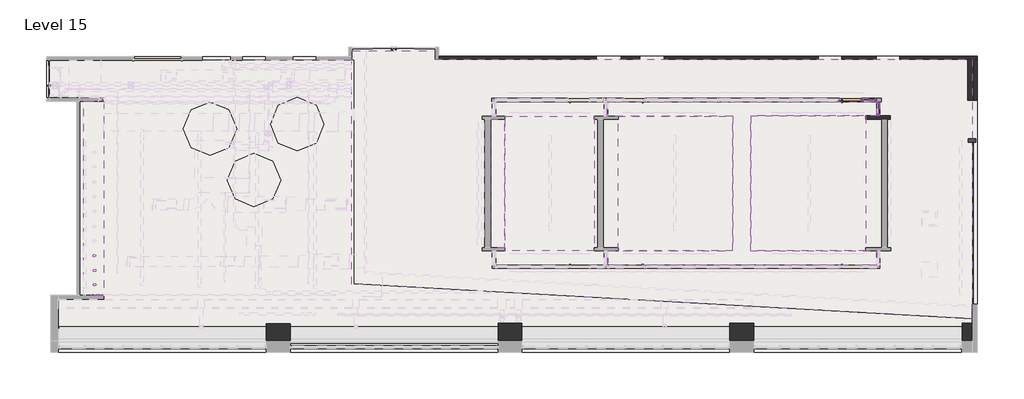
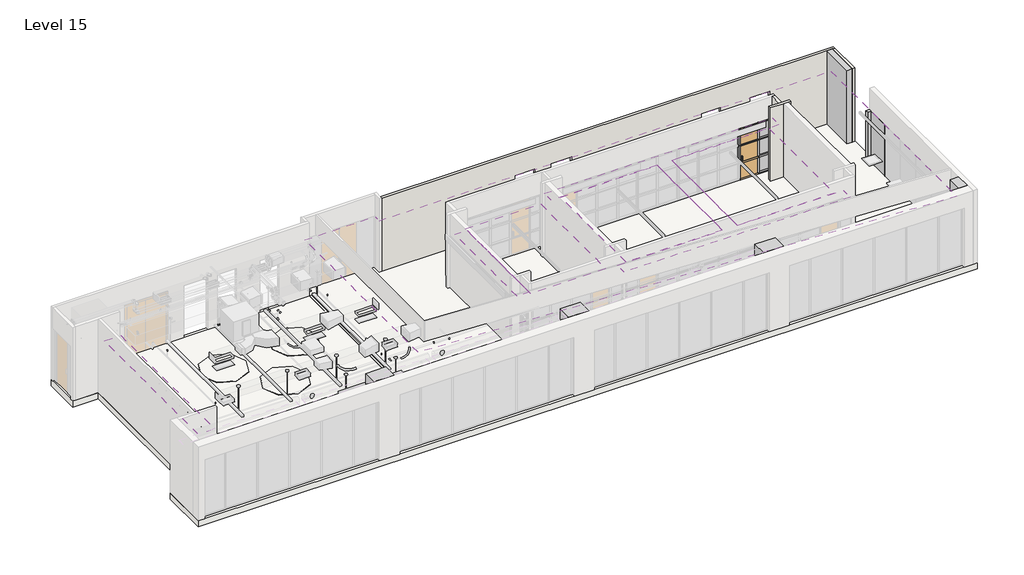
# One storey, part 6 of 11: 23 members, 7 coverings, 7 plates, 7 slabs, 5 columns, 4 walls, 3 light fixtures, 1 cable carrier fitting, 3 other elements.
"""IFC4 building model written with IfcOpenShell, lengths in millimetres."""

from ifc_helpers import new_model, si_unit, point, frame, frame_2d, origin, place, context, project, spatial, polyline, circle_curve, trimmed, segment, composite_curve, outline, extrude, faceted_brep, transform, mapped, element, save
from components import conduit_elbow_steel_standard_458d5d39, door_curtain_wall_single_glass_door_curtain_wall_single_wood_52bd217a, vessel_pendant_light_e44dd57b, member_954a25dd, member_b9f3750b, member_69cae7f1, member_757d0d80, member_801e719f, member_073d71e8, member_393abe5d, power_recessed_all2_duplex_standard_2_0b10a376, system_panel_glazed_545210b6, system_panel_glazed_46c34380, system_panel_glazed_1fe242f3, system_panel_glazed_966251f3, system_panel_glazed_4a8b0cf2

model = new_model("IFC4")

# Units and contexts
model_context = context("Model", 3, world=origin())
ifc_project = project(units=[si_unit("LENGTHUNIT", "METRE", prefix="MILLI")], contexts=[model_context])

# Site, building, storey
site = spatial("IfcSite", under=ifc_project)
building = spatial("IfcBuilding", under=site)
storey = spatial("IfcBuildingStorey", under=building, Name="Level 15", Elevation=51206.4)

# Cable carrier fitting
placement = place(None, origin())
conduit_elbow_steel_standard_shape = conduit_elbow_steel_standard_458d5d39(model_context)
element("IfcCableCarrierFitting", 1, ObjectType="Conduit Elbow - Steel : Standard", at=placement, inside=storey, context=model_context, shape_type="MappedRepresentation", body=[
    mapped(conduit_elbow_steel_standard_shape, transform((-16184.9997966, -4754.4898444, 54152.8), x_axis=(-1.0, 0.0, 0.0), y_axis=(0.0, 0.0, 1.0), z_axis=(0.0, 1.0, 0.0))),
])

# Cable carrier segment
element("IfcCableCarrierSegment", 2, ObjectType="Conduit", at=placement, inside=storey, context=model_context, shape_type="SweptSolid", body=[
    extrude(outline(composite_curve([segment(trimmed(circle_curve(frame_2d((0.0, 27.9019)), 27.9019), [point((0.0, 55.8038))], [point((27.9019, 27.9019))], False, "CARTESIAN"), True, "CONTINUOUS"), segment(trimmed(circle_curve(frame_2d((0.0, 27.9019)), 27.9019), [point((27.9019, 27.9019))], [point((0.0, 0.0))], False, "CARTESIAN"), True, "CONTINUOUS"), segment(trimmed(circle_curve(frame_2d((0.0, 27.9019)), 27.9019), [point((0.0, 0.0))], [point((-27.9019, 27.9019))], False, "CARTESIAN"), True, "CONTINUOUS"), segment(trimmed(circle_curve(frame_2d((0.0, 27.9019)), 27.9019), [point((-27.9019, 27.9019))], [point((0.0, 55.8038))], False, "CARTESIAN"), True, "CONTINUOUS")], self_intersect=False)), frame((-16336.928885, -4782.3917444, 54226.9007676), z_axis=(-0.8987940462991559, 0.0, 0.4383711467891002), x_axis=(0.4383711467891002, 0.0, 0.8987940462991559)), (0.0, 0.0, 1.0), 200.2570741),
])

# Columns
element("IfcColumn", 3, ObjectType="I-Rectangular : Generic", at=placement, inside=storey, context=model_context, shape_type="Brep", body=[
    faceted_brep([(-9539.17525, -5899.1866039, 51206.4), (-8574.3902447, -5899.1866039, 51206.4), (-8574.3902447, -6583.4064015, 51206.4), (-9539.17525, -6583.4064015, 51206.4), (-8574.3902447, -5899.1866039, 54889.4), (-8574.3902447, -6583.4064015, 54889.4), (-8574.3902447, -6583.4064015, 54177.8252182), (-9539.17525, -5899.1866039, 54889.4), (-9539.17525, -6583.4064015, 54177.8252182), (-9539.17525, -6583.4064015, 54889.4)], [[[0, 1, 2, 3]], [[1, 4, 5, 6, 2]], [[7, 0, 3, 8, 9]], [[1, 0, 7, 4]], [[4, 7, 9, 5]], [[3, 2, 6, 5, 9, 8]]]),
])
element("IfcColumn", 4, ObjectType="I-Rectangular : Generic", at=placement, inside=storey, context=model_context, shape_type="Brep", body=[
    faceted_brep([(-274.9578349, -5871.0652372, 51206.4), (671.2097553, -5871.0652372, 51206.4), (671.2097553, -6583.4064015, 51206.4), (-274.9578349, -6583.4064015, 51206.4), (671.2097553, -5871.0652372, 54889.4), (671.2097553, -6583.4064015, 54889.4), (671.2097553, -6583.4064015, 54177.8252182), (-274.9578349, -5871.0652372, 54889.4), (-274.9578349, -6583.4064015, 54177.8252182), (-274.9578349, -6583.4064015, 54889.4)], [[[0, 1, 2, 3]], [[1, 4, 5, 6, 2]], [[7, 0, 3, 8, 9]], [[1, 0, 7, 4]], [[4, 7, 9, 5]], [[3, 2, 6, 5, 9, 8]]]),
])
element("IfcColumn", 5, ObjectType="I-Rectangular : Generic", at=placement, inside=storey, context=model_context, shape_type="Brep", body=[
    faceted_brep([(8970.6421651, -5869.3476501, 51206.4), (9927.9060211, -5869.3476501, 51206.4), (9927.9060211, -6583.4064015, 51206.4), (8970.6421651, -6583.4064015, 51206.4), (9927.9060211, -5869.3476501, 54889.4), (9927.9060211, -6583.4064015, 54889.4), (9927.9060211, -6583.4064015, 54177.8252182), (8970.6421651, -5869.3476501, 54889.4), (8970.6421651, -6583.4064015, 54177.8252182), (8970.6421651, -6583.4064015, 54889.4)], [[[0, 1, 2, 3]], [[1, 4, 5, 6, 2]], [[7, 0, 3, 8, 9]], [[1, 0, 7, 4]], [[4, 7, 9, 5]], [[3, 2, 6, 5, 9, 8]]]),
])
element("IfcColumn", 6, ObjectType="I-Rectangular : Generic", at=placement, inside=storey, context=model_context, shape_type="SweptSolid", body=[
    extrude(outline(polyline([(18244.658577, -6583.4064015), (18244.658577, -5866.7417202), (18657.7084916, -5866.7417202), (18657.7084916, -6583.4064015), (18244.658577, -6583.4064015)])), frame((0.0, 0.0, 51206.4), z_axis=(0.0, 0.0, 1.0), x_axis=(1.0, 0.0, 0.0)), (0.0, 0.0, 1.0), 3683.0),
])
element("IfcColumn", 7, ObjectType="I-Rectangular : Generic", at=placement, inside=storey, context=model_context, shape_type="SweptSolid", body=[
    extrude(outline(polyline([(18721.2084916, 4668.7435985), (18721.2084916, 3026.2127401), (18467.0166559, 3026.2127401), (18467.0166559, 4668.7435985), (18721.2084916, 4668.7435985)])), frame((0.0, 0.0, 51206.4), z_axis=(0.0, 0.0, 1.0), x_axis=(1.0, 0.0, 0.0)), (0.0, 0.0, 1.0), 3683.0),
])

# Coverings
element("IfcCovering", 8, ObjectType="30\" x 30\" ACT System", at=placement, inside=storey, context=model_context, shape_type="SweptSolid", body=[
    extrude(outline(polyline([(-7.6915135, 2394.7059951), (3562.7584916, 2394.7059951), (3562.7584916, -2979.8064015), (-7.6915135, -2979.8064015), (-7.6915135, 2394.7059951)]), holes=[composite_curve([segment(trimmed(circle_curve(frame_2d((627.7584916, -1841.8064015)), 70.0), [point((557.7584916, -1841.8064015))], [point((697.7584916, -1841.8064015))], True, "CARTESIAN"), True, "CONTINUOUS"), segment(trimmed(circle_curve(frame_2d((627.7584916, -1841.8064015)), 70.0), [point((697.7584916, -1841.8064015))], [point((557.7584916, -1841.8064015))], True, "CARTESIAN"), True, "CONTINUOUS")], self_intersect=False), composite_curve([segment(trimmed(circle_curve(frame_2d((2937.7584916, -1841.8064015)), 70.0), [point((2867.7584916, -1841.8064015))], [point((3007.7584916, -1841.8064015))], True, "CARTESIAN"), True, "CONTINUOUS"), segment(trimmed(circle_curve(frame_2d((2937.7584916, -1841.8064015)), 70.0), [point((3007.7584916, -1841.8064015))], [point((2867.7584916, -1841.8064015))], True, "CARTESIAN"), True, "CONTINUOUS")], self_intersect=False)]), frame((0.0, 0.0, 53797.2), z_axis=(0.0, 0.0, 1.0), x_axis=(1.0, 0.0, 0.0)), (0.0, 0.0, 1.0), 57.15),
])
element("IfcCovering", 9, ObjectType="30\" x 30\" ACT System", at=placement, inside=storey, context=model_context, shape_type="SweptSolid", body=[
    extrude(outline(polyline([(4517.5084916, -2979.8064015), (4517.5084916, 2394.7059951), (9097.7584916, 2394.7059951), (9097.7584916, -2979.8064015), (4517.5084916, -2979.8064015)]), holes=[composite_curve([segment(trimmed(circle_curve(frame_2d((5677.7584916, 1258.1935985)), 70.0), [point((5607.7584916, 1258.1935985))], [point((5747.7584916, 1258.1935985))], True, "CARTESIAN"), True, "CONTINUOUS"), segment(trimmed(circle_curve(frame_2d((5677.7584916, 1258.1935985)), 70.0), [point((5747.7584916, 1258.1935985))], [point((5607.7584916, 1258.1935985))], True, "CARTESIAN"), True, "CONTINUOUS")], self_intersect=False), composite_curve([segment(trimmed(circle_curve(frame_2d((7997.7584916, 1258.1935985)), 70.0), [point((7927.7584916, 1258.1935985))], [point((8067.7584916, 1258.1935985))], True, "CARTESIAN"), True, "CONTINUOUS"), segment(trimmed(circle_curve(frame_2d((7997.7584916, 1258.1935985)), 70.0), [point((8067.7584916, 1258.1935985))], [point((7927.7584916, 1258.1935985))], True, "CARTESIAN"), True, "CONTINUOUS")], self_intersect=False), composite_curve([segment(trimmed(circle_curve(frame_2d((5667.7584916, -1833.8064015)), 70.0), [point((5597.7584916, -1833.8064015))], [point((5737.7584916, -1833.8064015))], True, "CARTESIAN"), True, "CONTINUOUS"), segment(trimmed(circle_curve(frame_2d((5667.7584916, -1833.8064015)), 70.0), [point((5737.7584916, -1833.8064015))], [point((5597.7584916, -1833.8064015))], True, "CARTESIAN"), True, "CONTINUOUS")], self_intersect=False), composite_curve([segment(trimmed(circle_curve(frame_2d((7947.7584916, -1851.8064015)), 70.0), [point((7877.7584916, -1851.8064015))], [point((8017.7584916, -1851.8064015))], True, "CARTESIAN"), True, "CONTINUOUS"), segment(trimmed(circle_curve(frame_2d((7947.7584916, -1851.8064015)), 70.0), [point((8017.7584916, -1851.8064015))], [point((7877.7584916, -1851.8064015))], True, "CARTESIAN"), True, "CONTINUOUS")], self_intersect=False)]), frame((0.0, 0.0, 53797.2), z_axis=(0.0, 0.0, 1.0), x_axis=(1.0, 0.0, 0.0)), (0.0, 0.0, 1.0), 57.15),
])
element("IfcCovering", 10, ObjectType="30\" x 30\" ACT System", at=placement, inside=storey, context=model_context, shape_type="SweptSolid", body=[
    extrude(outline(polyline([(9803.199573, 2402.7935985), (14409.2229086, 2402.7935985), (14409.2229086, -2979.9154908), (9803.199573, -2979.9154908), (9803.199573, 2402.7935985)]), holes=[composite_curve([segment(trimmed(circle_curve(frame_2d((10967.7584916, -1841.8064015)), 70.0), [point((10897.7584916, -1841.8064015))], [point((11037.7584916, -1841.8064015))], True, "CARTESIAN"), True, "CONTINUOUS"), segment(trimmed(circle_curve(frame_2d((10967.7584916, -1841.8064015)), 70.0), [point((11037.7584916, -1841.8064015))], [point((10897.7584916, -1841.8064015))], True, "CARTESIAN"), True, "CONTINUOUS")], self_intersect=False), composite_curve([segment(trimmed(circle_curve(frame_2d((13277.7584916, -1841.8064015)), 70.0), [point((13207.7584916, -1841.8064015))], [point((13347.7584916, -1841.8064015))], True, "CARTESIAN"), True, "CONTINUOUS"), segment(trimmed(circle_curve(frame_2d((13277.7584916, -1841.8064015)), 70.0), [point((13347.7584916, -1841.8064015))], [point((13207.7584916, -1841.8064015))], True, "CARTESIAN"), True, "CONTINUOUS")], self_intersect=False), composite_curve([segment(trimmed(circle_curve(frame_2d((10967.7584916, 1258.1935985)), 70.0), [point((10897.7584916, 1258.1935985))], [point((11037.7584916, 1258.1935985))], True, "CARTESIAN"), True, "CONTINUOUS"), segment(trimmed(circle_curve(frame_2d((10967.7584916, 1258.1935985)), 70.0), [point((11037.7584916, 1258.1935985))], [point((10897.7584916, 1258.1935985))], True, "CARTESIAN"), True, "CONTINUOUS")], self_intersect=False), composite_curve([segment(trimmed(circle_curve(frame_2d((13277.7584916, 1258.1935985)), 70.0), [point((13207.7584916, 1258.1935985))], [point((13347.7584916, 1258.1935985))], True, "CARTESIAN"), True, "CONTINUOUS"), segment(trimmed(circle_curve(frame_2d((13277.7584916, 1258.1935985)), 70.0), [point((13347.7584916, 1258.1935985))], [point((13207.7584916, 1258.1935985))], True, "CARTESIAN"), True, "CONTINUOUS")], self_intersect=False)]), frame((0.0, 0.0, 53797.2), z_axis=(0.0, 0.0, 1.0), x_axis=(1.0, 0.0, 0.0)), (0.0, 0.0, 1.0), 57.15),
])
element("IfcCovering", 11, ObjectType="GWB on Mtl. Stud", at=placement, inside=storey, context=model_context, shape_type="SweptSolid", body=[
    extrude(outline(polyline([(-2790.2478839, 4668.7435985), (18657.7084916, 4668.7435985), (18657.7084916, -5694.4064015), (-6122.87525, -4309.3116273), (-6122.87525, 5008.9081345), (-2790.2478839, 5008.9081345), (-2790.2478839, 4668.7435985)]), holes=[composite_curve([segment(trimmed(circle_curve(frame_2d((-4452.2415084, 3878.1935985)), 70.0), [point((-4522.2415084, 3878.1935985))], [point((-4382.2415084, 3878.1935985))], True, "CARTESIAN"), True, "CONTINUOUS"), segment(trimmed(circle_curve(frame_2d((-4452.2415084, 3878.1935985)), 70.0), [point((-4382.2415084, 3878.1935985))], [point((-4522.2415084, 3878.1935985))], True, "CARTESIAN"), True, "CONTINUOUS")], self_intersect=False), composite_curve([segment(trimmed(circle_curve(frame_2d((-4452.2415084, 2015.1935985)), 70.0), [point((-4522.2415084, 2015.1935985))], [point((-4382.2415084, 2015.1935985))], True, "CARTESIAN"), True, "CONTINUOUS"), segment(trimmed(circle_curve(frame_2d((-4452.2415084, 2015.1935985)), 70.0), [point((-4382.2415084, 2015.1935985))], [point((-4522.2415084, 2015.1935985))], True, "CARTESIAN"), True, "CONTINUOUS")], self_intersect=False), composite_curve([segment(trimmed(circle_curve(frame_2d((-4452.2415084, 98.1935985)), 70.0), [point((-4522.2415084, 98.1935985))], [point((-4382.2415084, 98.1935985))], True, "CARTESIAN"), True, "CONTINUOUS"), segment(trimmed(circle_curve(frame_2d((-4452.2415084, 98.1935985)), 70.0), [point((-4382.2415084, 98.1935985))], [point((-4522.2415084, 98.1935985))], True, "CARTESIAN"), True, "CONTINUOUS")], self_intersect=False), composite_curve([segment(trimmed(circle_curve(frame_2d((-4452.2415084, -1761.8064015)), 70.0), [point((-4522.2415084, -1761.8064015))], [point((-4382.2415084, -1761.8064015))], True, "CARTESIAN"), True, "CONTINUOUS"), segment(trimmed(circle_curve(frame_2d((-4452.2415084, -1761.8064015)), 70.0), [point((-4382.2415084, -1761.8064015))], [point((-4522.2415084, -1761.8064015))], True, "CARTESIAN"), True, "CONTINUOUS")], self_intersect=False), composite_curve([segment(trimmed(circle_curve(frame_2d((-4452.2415084, -3684.6064015)), 70.0), [point((-4522.2415084, -3684.6064015))], [point((-4382.2415084, -3684.6064015))], True, "CARTESIAN"), True, "CONTINUOUS"), segment(trimmed(circle_curve(frame_2d((-4452.2415084, -3684.6064015)), 70.0), [point((-4382.2415084, -3684.6064015))], [point((-4522.2415084, -3684.6064015))], True, "CARTESIAN"), True, "CONTINUOUS")], self_intersect=False), composite_curve([segment(trimmed(circle_curve(frame_2d((-2501.1453174, 3878.1935985)), 70.0), [point((-2571.1453174, 3878.1935985))], [point((-2431.1453174, 3878.1935985))], True, "CARTESIAN"), True, "CONTINUOUS"), segment(trimmed(circle_curve(frame_2d((-2501.1453174, 3878.1935985)), 70.0), [point((-2431.1453174, 3878.1935985))], [point((-2571.1453174, 3878.1935985))], True, "CARTESIAN"), True, "CONTINUOUS")], self_intersect=False), composite_curve([segment(trimmed(circle_curve(frame_2d((-2501.1453174, 2015.1935985)), 70.0), [point((-2571.1453174, 2015.1935985))], [point((-2431.1453174, 2015.1935985))], True, "CARTESIAN"), True, "CONTINUOUS"), segment(trimmed(circle_curve(frame_2d((-2501.1453174, 2015.1935985)), 70.0), [point((-2431.1453174, 2015.1935985))], [point((-2571.1453174, 2015.1935985))], True, "CARTESIAN"), True, "CONTINUOUS")], self_intersect=False), composite_curve([segment(trimmed(circle_curve(frame_2d((-2501.1453174, 98.1935985)), 70.0), [point((-2571.1453174, 98.1935985))], [point((-2431.1453174, 98.1935985))], True, "CARTESIAN"), True, "CONTINUOUS"), segment(trimmed(circle_curve(frame_2d((-2501.1453174, 98.1935985)), 70.0), [point((-2431.1453174, 98.1935985))], [point((-2571.1453174, 98.1935985))], True, "CARTESIAN"), True, "CONTINUOUS")], self_intersect=False), composite_curve([segment(trimmed(circle_curve(frame_2d((-2501.1453174, -1761.8064015)), 70.0), [point((-2571.1453174, -1761.8064015))], [point((-2431.1453174, -1761.8064015))], True, "CARTESIAN"), True, "CONTINUOUS"), segment(trimmed(circle_curve(frame_2d((-2501.1453174, -1761.8064015)), 70.0), [point((-2431.1453174, -1761.8064015))], [point((-2571.1453174, -1761.8064015))], True, "CARTESIAN"), True, "CONTINUOUS")], self_intersect=False), composite_curve([segment(trimmed(circle_curve(frame_2d((-2501.1453174, -3684.6064015)), 70.0), [point((-2571.1453174, -3684.6064015))], [point((-2431.1453174, -3684.6064015))], True, "CARTESIAN"), True, "CONTINUOUS"), segment(trimmed(circle_curve(frame_2d((-2501.1453174, -3684.6064015)), 70.0), [point((-2431.1453174, -3684.6064015))], [point((-2571.1453174, -3684.6064015))], True, "CARTESIAN"), True, "CONTINUOUS")], self_intersect=False), polyline([(-529.1055951, 3103.416042), (-529.1055951, 2388.3059951), (-922.0915135, 2388.3059951), (-922.0915135, 2261.3059951), (-814.1415135, 2261.3059951), (-814.1415135, -2852.8064015), (-905.2415084, -2852.8064015), (-905.2415084, -2979.8064015), (-506.4144534, -2979.8064015), (-506.4144534, -3684.6064015), (14962.1855466, -3684.6064015), (14962.1855466, -2979.9154908), (15397.6738149, -2979.9154908), (15397.6738149, -2852.9154908), (15259.9736219, -2852.9154908), (15259.9736219, 2275.7935985), (15371.1287834, 2275.7935985), (15371.1287834, 2402.7935985), (15015.6944049, 2402.7935985), (15015.6944049, 3103.416042), (-529.1055951, 3103.416042)])]), frame((0.0, 0.0, 53797.2), z_axis=(0.0, 0.0, 1.0), x_axis=(1.0, 0.0, 0.0)), (0.0, 0.0, 1.0), 92.075),
])
element("IfcCovering", 12, ObjectType="GWB on Mtl. Stud", at=placement, inside=storey, context=model_context, shape_type="SweptSolid", body=[
    extrude(outline(polyline([(-16819.9809218, -4757.7011111), (-16819.9809218, 2985.6250496), (-16037.0051026, 2985.6250496), (-16037.0051026, -4757.7011111), (-16819.9809218, -4757.7011111)])), frame((0.0, 0.0, 53701.95), z_axis=(0.0, 0.0, 1.0), x_axis=(1.0, 0.0, 0.0)), (0.0, 0.0, 1.0), 92.075),
])
element("IfcCovering", 13, ObjectType="GWB on Mtl. Stud", at=placement, inside=storey, context=model_context, shape_type="SweptSolid", body=[
    extrude(outline(polyline([(-585.5415135, -2852.8064015), (-585.5415135, 2261.3059951), (-7.6915135, 2261.3059951), (-7.6915135, -2852.8064015), (-585.5415135, -2852.8064015)])), frame((0.0, 0.0, 53797.2), z_axis=(0.0, 0.0, 1.0), x_axis=(1.0, 0.0, 0.0)), (0.0, 0.0, 1.0), 92.075),
    extrude(outline(polyline([(3964.0369657, -2979.8064015), (3964.0369657, -3557.6064015), (-379.4144534, -3557.6064015), (-379.4144534, -2979.8064015), (3964.0369657, -2979.8064015)])), frame((0.0, 0.0, 53797.2), z_axis=(0.0, 0.0, 1.0), x_axis=(1.0, 0.0, 0.0)), (0.0, 0.0, 1.0), 92.075),
    extrude(outline(polyline([(3697.3369657, -2852.8064015), (3562.7584916, -2852.8064015), (3562.7584916, 2267.7059951), (3697.3369657, 2267.7059951), (3697.3369657, -2852.8064015)])), frame((0.0, 0.0, 53797.2), z_axis=(0.0, 0.0, 1.0), x_axis=(1.0, 0.0, 0.0)), (0.0, 0.0, 1.0), 92.075),
    extrude(outline(polyline([(3949.4264687, 2976.416042), (3949.4264687, 2394.7059951), (-402.1055951, 2394.7059951), (-402.1055951, 2976.416042), (3949.4264687, 2976.416042)])), frame((0.0, 0.0, 53797.2), z_axis=(0.0, 0.0, 1.0), x_axis=(1.0, 0.0, 0.0)), (0.0, 0.0, 1.0), 92.075),
])
element("IfcCovering", 14, ObjectType="GWB on Mtl. Stud", at=placement, inside=storey, context=model_context, shape_type="SweptSolid", body=[
    extrude(outline(polyline([(3925.9369657, -2852.8064015), (3925.9369657, 2267.7059951), (4517.5084916, 2267.7059951), (4517.5084916, -2852.8064015), (3925.9369657, -2852.8064015)])), frame((0.0, 0.0, 53797.2), z_axis=(0.0, 0.0, 1.0), x_axis=(1.0, 0.0, 0.0)), (0.0, 0.0, 1.0), 92.075),
    extrude(outline(polyline([(4091.0369657, -2979.8064015), (9097.7584916, -2979.8064015), (9097.7584916, 2394.7059951), (4076.4264687, 2394.7059951), (4076.4264687, 2976.416042), (14888.6944049, 2976.416042), (14888.6944049, 2402.7935985), (9803.199573, 2402.7935985), (9803.199573, -2979.9154908), (14835.1855466, -2979.9154908), (14835.1855466, -3557.6064015), (4091.0369657, -3557.6064015), (4091.0369657, -2979.8064015)])), frame((0.0, 0.0, 53797.2), z_axis=(0.0, 0.0, 1.0), x_axis=(1.0, 0.0, 0.0)), (0.0, 0.0, 1.0), 92.075),
    extrude(outline(polyline([(14409.2229086, -2852.9154908), (14409.2229086, 2275.7935985), (15031.3736219, 2275.7935985), (15031.3736219, -2852.9154908), (14409.2229086, -2852.9154908)])), frame((0.0, 0.0, 53797.2), z_axis=(0.0, 0.0, 1.0), x_axis=(1.0, 0.0, 0.0)), (0.0, 0.0, 1.0), 92.075),
])

# Door
door_curtain_wall_single_glass_door_curtain_wall_single_wood_shape = door_curtain_wall_single_glass_door_curtain_wall_single_wood_52bd217a(model_context)
element("IfcDoor", 15, ObjectType="Door-Curtain-Wall-Single-Glass : Door-Curtain-Wall-Single-Wood", at=placement, inside=storey, context=model_context, shape_type="MappedRepresentation", body=[
    mapped(door_curtain_wall_single_glass_door_curtain_wall_single_wood_shape, transform((13793.8112561, 3036.0059951, 51206.4), x_axis=(1.0, 0.0, 0.0), y_axis=(0.0, 1.0, 0.0), z_axis=(0.0, 0.0, 1.0))),
])

# Light fixtures
vessel_pendant_light_shape = vessel_pendant_light_e44dd57b(model_context)
element("IfcLightFixture", 16, ObjectType="Lighting-VSRA-Vessel-Pendant-Light-SM-3D-Humanscale : Vessel Pendant Light", at=placement, inside=storey, context=model_context, shape_type="MappedRepresentation", body=[
    mapped(vessel_pendant_light_shape, transform((-16402.2415084, -3181.0064015, 53511.8286274), x_axis=(1.0, 0.0, 0.0), y_axis=(0.0, 1.0, 0.0), z_axis=(0.0, 0.0, 1.0))),
])
element("IfcLightFixture", 17, ObjectType="Lighting-VSRA-Vessel-Pendant-Light-SM-3D-Humanscale : Vessel Pendant Light", at=placement, inside=storey, context=model_context, shape_type="MappedRepresentation", body=[
    mapped(vessel_pendant_light_shape, transform((-16396.2415084, -3771.8064015, 53511.8286274), x_axis=(1.0, 0.0, 0.0), y_axis=(0.0, 1.0, 0.0), z_axis=(0.0, 0.0, 1.0))),
])
element("IfcLightFixture", 18, ObjectType="Lighting-VSRA-Vessel-Pendant-Light-SM-3D-Humanscale : Vessel Pendant Light", at=placement, inside=storey, context=model_context, shape_type="MappedRepresentation", body=[
    mapped(vessel_pendant_light_shape, transform((-16396.2415084, -4336.4064015, 53511.8286274), x_axis=(1.0, 0.0, 0.0), y_axis=(0.0, 1.0, 0.0), z_axis=(0.0, 0.0, 1.0))),
])

# Members
member_shape = member_954a25dd(model_context)
element("IfcMember", 19, ObjectType="Rectangular Mullion : 2.5\" x 5\" rectangular", at=placement, inside=storey, context=model_context, shape_type="MappedRepresentation", body=[
    mapped(member_shape, transform((14898.6855466, 2972.5059951, 51206.4), x_axis=(0.0, 1.0, 0.0), y_axis=(1.0, 0.0, 0.0), z_axis=(0.0, 0.0, -1.0))),
])
element("IfcMember", 20, ObjectType="Rectangular Mullion : 2.5\" x 5\" rectangular", at=placement, inside=storey, context=model_context, shape_type="MappedRepresentation", body=[
    mapped(member_shape, transform((14898.6855466, 2402.7935985, 53804.1570075), x_axis=(0.0, -1.0, 0.0), y_axis=(1.0, 0.0, 0.0), z_axis=(0.0, 0.0, 1.0))),
])
element("IfcMember", 21, ObjectType="Rectangular Mullion : 2.5\" x 5\" rectangular", at=placement, inside=storey, context=model_context, shape_type="MappedRepresentation", body=[
    mapped(member_shape, transform((14835.1855466, 3036.0059951, 53804.1570075), x_axis=(1.0, 0.0, 0.0), y_axis=(0.0, 1.0, 0.0), z_axis=(0.0, 0.0, 1.0))),
])
member_2_shape = member_b9f3750b(model_context)
element("IfcMember", 22, ObjectType="Rectangular Mullion : 2.5\" x 5\" rectangular", at=placement, inside=storey, context=model_context, shape_type="MappedRepresentation", body=[
    mapped(member_2_shape, transform((14771.6855466, 3036.0059951, 51206.4), x_axis=(0.0, 0.0, -1.0), y_axis=(0.0, 1.0, 0.0), z_axis=(1.0, 0.0, 0.0))),
])
member_3_shape = member_69cae7f1(model_context)
element("IfcMember", 23, ObjectType="Rectangular Mullion : 2.5\" x 5\" rectangular", at=placement, inside=storey, context=model_context, shape_type="MappedRepresentation", body=[
    mapped(member_3_shape, transform((14250.9855466, 3036.0059951, 51206.4), x_axis=(-1.0, 0.0, 0.0), y_axis=(0.0, 1.0, 0.0), z_axis=(0.0, 0.0, -1.0))),
])
element("IfcMember", 24, ObjectType="Rectangular Mullion : 2.5\" x 5\" rectangular", at=placement, inside=storey, context=model_context, shape_type="MappedRepresentation", body=[
    mapped(member_2_shape, transform((14282.7355466, 3036.0059951, 53804.1570075), x_axis=(0.0, 0.0, 1.0), y_axis=(0.0, 1.0, 0.0), z_axis=(-1.0, 0.0, 0.0))),
])
member_4_shape = member_757d0d80(model_context)
element("IfcMember", 25, ObjectType="Rectangular Mullion : 2.5\" x 5\" rectangular", at=placement, inside=storey, context=model_context, shape_type="MappedRepresentation", body=[
    mapped(member_4_shape, transform((14282.7355466, 3036.0059951, 52938.238005), x_axis=(0.0, 0.0, 1.0), y_axis=(0.0, 1.0, 0.0), z_axis=(-1.0, 0.0, 0.0))),
])
element("IfcMember", 26, ObjectType="Rectangular Mullion : 2.5\" x 5\" rectangular", at=placement, inside=storey, context=model_context, shape_type="MappedRepresentation", body=[
    mapped(member_4_shape, transform((14282.7355466, 3036.0059951, 52072.3190025), x_axis=(0.0, 0.0, 1.0), y_axis=(0.0, 1.0, 0.0), z_axis=(-1.0, 0.0, 0.0))),
])
element("IfcMember", 27, ObjectType="Rectangular Mullion : 2.5\" x 5\" rectangular", at=placement, inside=storey, context=model_context, shape_type="MappedRepresentation", body=[
    mapped(member_3_shape, transform((14250.9855466, 3036.0059951, 52938.238005), x_axis=(-1.0, 0.0, 0.0), y_axis=(0.0, 1.0, 0.0), z_axis=(0.0, 0.0, -1.0))),
])
element("IfcMember", 28, ObjectType="Rectangular Mullion : 2.5\" x 5\" rectangular", at=placement, inside=storey, context=model_context, shape_type="MappedRepresentation", body=[
    mapped(member_3_shape, transform((13336.6369657, 3036.0059951, 52938.238005), x_axis=(-1.0, 0.0, 0.0), y_axis=(0.0, 1.0, 0.0), z_axis=(0.0, 0.0, -1.0))),
])
element("IfcMember", 29, ObjectType="Rectangular Mullion : 2.5\" x 5\" rectangular", at=placement, inside=storey, context=model_context, shape_type="MappedRepresentation", body=[
    mapped(member_3_shape, transform((14250.9855466, 3036.0059951, 52072.3190025), x_axis=(-1.0, 0.0, 0.0), y_axis=(0.0, 1.0, 0.0), z_axis=(0.0, 0.0, -1.0))),
])
element("IfcMember", 30, ObjectType="Rectangular Mullion : 2.5\" x 5\" rectangular", at=placement, inside=storey, context=model_context, shape_type="MappedRepresentation", body=[
    mapped(member_3_shape, transform((13336.6369657, 3036.0059951, 52072.3190025), x_axis=(-1.0, 0.0, 0.0), y_axis=(0.0, 1.0, 0.0), z_axis=(0.0, 0.0, -1.0))),
])
element("IfcMember", 31, ObjectType="Rectangular Mullion : 2.5\" x 5\" rectangular", at=placement, inside=storey, context=model_context, shape_type="MappedRepresentation", body=[
    mapped(member_shape, transform((14898.6855466, 2972.5059951, 52938.238005), x_axis=(0.0, 1.0, 0.0), y_axis=(1.0, 0.0, 0.0), z_axis=(0.0, 0.0, -1.0))),
])
element("IfcMember", 32, ObjectType="Rectangular Mullion : 2.5\" x 5\" rectangular", at=placement, inside=storey, context=model_context, shape_type="MappedRepresentation", body=[
    mapped(member_shape, transform((14835.1855466, 3036.0059951, 52938.238005), x_axis=(1.0, 0.0, 0.0), y_axis=(0.0, 1.0, 0.0), z_axis=(0.0, 0.0, 1.0))),
])
element("IfcMember", 33, ObjectType="Rectangular Mullion : 2.5\" x 5\" rectangular", at=placement, inside=storey, context=model_context, shape_type="MappedRepresentation", body=[
    mapped(member_shape, transform((14898.6855466, 2402.7935985, 52938.238005), x_axis=(0.0, -1.0, 0.0), y_axis=(1.0, 0.0, 0.0), z_axis=(0.0, 0.0, 1.0))),
])
element("IfcMember", 34, ObjectType="Rectangular Mullion : 2.5\" x 5\" rectangular", at=placement, inside=storey, context=model_context, shape_type="MappedRepresentation", body=[
    mapped(member_shape, transform((14898.6855466, 2972.5059951, 52072.3190025), x_axis=(0.0, 1.0, 0.0), y_axis=(1.0, 0.0, 0.0), z_axis=(0.0, 0.0, -1.0))),
])
element("IfcMember", 35, ObjectType="Rectangular Mullion : 2.5\" x 5\" rectangular", at=placement, inside=storey, context=model_context, shape_type="MappedRepresentation", body=[
    mapped(member_shape, transform((14835.1855466, 3036.0059951, 52072.3190025), x_axis=(1.0, 0.0, 0.0), y_axis=(0.0, 1.0, 0.0), z_axis=(0.0, 0.0, 1.0))),
])
element("IfcMember", 36, ObjectType="Rectangular Mullion : 2.5\" x 5\" rectangular", at=placement, inside=storey, context=model_context, shape_type="MappedRepresentation", body=[
    mapped(member_shape, transform((14898.6855466, 2402.7935985, 52072.3190025), x_axis=(0.0, -1.0, 0.0), y_axis=(1.0, 0.0, 0.0), z_axis=(0.0, 0.0, 1.0))),
])
member_5_shape = member_801e719f(model_context)
element("IfcMember", 37, ObjectType="Rectangular Mullion : 2.5\" x 5\" rectangular", at=placement, inside=storey, context=model_context, shape_type="MappedRepresentation", body=[
    mapped(member_5_shape, transform((14898.6855466, 2909.0059951, 53804.1570075), x_axis=(0.0, 0.0, 1.0), y_axis=(1.0, 0.0, 0.0), z_axis=(0.0, 1.0, 0.0))),
])
element("IfcMember", 38, ObjectType="Rectangular Mullion : 2.5\" x 5\" rectangular", at=placement, inside=storey, context=model_context, shape_type="MappedRepresentation", body=[
    mapped(member_5_shape, transform((14898.6855466, 2466.2935985, 51206.4), x_axis=(0.0, 0.0, -1.0), y_axis=(1.0, 0.0, 0.0), z_axis=(0.0, -1.0, 0.0))),
])
member_6_shape = member_073d71e8(model_context)
element("IfcMember", 39, ObjectType="Rectangular Mullion : 2.5\" x 5\" rectangular", at=placement, inside=storey, context=model_context, shape_type="MappedRepresentation", body=[
    mapped(member_6_shape, transform((14898.6855466, 2909.0059951, 52938.238005), x_axis=(0.0, 0.0, 1.0), y_axis=(1.0, 0.0, 0.0), z_axis=(0.0, 1.0, 0.0))),
])
element("IfcMember", 40, ObjectType="Rectangular Mullion : 2.5\" x 5\" rectangular", at=placement, inside=storey, context=model_context, shape_type="MappedRepresentation", body=[
    mapped(member_6_shape, transform((14898.6855466, 2909.0059951, 52072.3190025), x_axis=(0.0, 0.0, 1.0), y_axis=(1.0, 0.0, 0.0), z_axis=(0.0, 1.0, 0.0))),
])
member_7_shape = member_393abe5d(model_context)
element("IfcMember", 41, ObjectType="Rectangular Mullion : 2.5\" x 5\" rectangular 2", at=placement, inside=storey, context=model_context, shape_type="MappedRepresentation", body=[
    mapped(member_7_shape, transform((18645.0084916, 1493.7935985, 53804.1570075), x_axis=(0.0, 1.0, 0.0), y_axis=(-1.0, 0.0, 0.0), z_axis=(0.0, 0.0, 1.0))),
])

# Outlet
power_recessed_all2_duplex_standard_2_shape = power_recessed_all2_duplex_standard_2_0b10a376(model_context)
element("IfcOutlet", 42, ObjectType="Power-Recessed-All2 : Duplex-Standard 2", at=placement, inside=storey, context=model_context, shape_type="MappedRepresentation", body=[
    mapped(power_recessed_all2_duplex_standard_2_shape, transform((-17838.6076598, -6050.0064015, 51917.6), x_axis=(0.0, -1.0, 0.0), y_axis=(0.0, 0.0, -1.0), z_axis=(1.0, 0.0, 0.0))),
])

# Plates
system_panel_glazed_shape = system_panel_glazed_545210b6(model_context)
element("IfcPlate", 43, ObjectType="System Panel : Glazed", at=placement, inside=storey, context=model_context, shape_type="MappedRepresentation", body=[
    mapped(system_panel_glazed_shape, transform((18645.0084916, 792.1185985, 51206.4), x_axis=(0.0, -1.0, 0.0), y_axis=(1.0, 0.0, 0.0), z_axis=(0.0, 0.0, 1.0))),
])
system_panel_glazed_2_shape = system_panel_glazed_46c34380(model_context)
element("IfcPlate", 44, ObjectType="System Panel : Glazed", at=placement, inside=storey, context=model_context, shape_type="MappedRepresentation", body=[
    mapped(system_panel_glazed_2_shape, transform((14527.2105466, 3036.0059951, 51269.9), x_axis=(-1.0, 0.0, 0.0), y_axis=(0.0, -1.0, 0.0), z_axis=(0.0, 0.0, 1.0))),
])
element("IfcPlate", 45, ObjectType="System Panel : Glazed", at=placement, inside=storey, context=model_context, shape_type="MappedRepresentation", body=[
    mapped(system_panel_glazed_2_shape, transform((14527.2105466, 3036.0059951, 52969.988005), x_axis=(-1.0, 0.0, 0.0), y_axis=(0.0, -1.0, 0.0), z_axis=(0.0, 0.0, 1.0))),
])
system_panel_glazed_3_shape = system_panel_glazed_1fe242f3(model_context)
element("IfcPlate", 46, ObjectType="System Panel : Glazed", at=placement, inside=storey, context=model_context, shape_type="MappedRepresentation", body=[
    mapped(system_panel_glazed_3_shape, transform((14527.2105466, 3036.0059951, 52104.0690025), x_axis=(-1.0, 0.0, 0.0), y_axis=(0.0, -1.0, 0.0), z_axis=(0.0, 0.0, 1.0))),
])
system_panel_glazed_4_shape = system_panel_glazed_966251f3(model_context)
element("IfcPlate", 47, ObjectType="System Panel : Glazed", at=placement, inside=storey, context=model_context, shape_type="MappedRepresentation", body=[
    mapped(system_panel_glazed_4_shape, transform((14898.6855466, 2687.6497968, 51269.9), x_axis=(0.0, 1.0, 0.0), y_axis=(-1.0, 0.0, 0.0), z_axis=(0.0, 0.0, 1.0))),
])
element("IfcPlate", 48, ObjectType="System Panel : Glazed", at=placement, inside=storey, context=model_context, shape_type="MappedRepresentation", body=[
    mapped(system_panel_glazed_4_shape, transform((14898.6855466, 2687.6497968, 52969.988005), x_axis=(0.0, 1.0, 0.0), y_axis=(-1.0, 0.0, 0.0), z_axis=(0.0, 0.0, 1.0))),
])
system_panel_glazed_5_shape = system_panel_glazed_4a8b0cf2(model_context)
element("IfcPlate", 49, ObjectType="System Panel : Glazed", at=placement, inside=storey, context=model_context, shape_type="MappedRepresentation", body=[
    mapped(system_panel_glazed_5_shape, transform((14898.6855466, 2687.6497968, 52104.0690025), x_axis=(0.0, 1.0, 0.0), y_axis=(-1.0, 0.0, 0.0), z_axis=(0.0, 0.0, 1.0))),
])

# Slabs
element("IfcSlab", 50, ObjectType="Generic - 12\"", at=placement, inside=storey, context=model_context, shape_type="SweptSolid", body=[
    extrude(outline(polyline([(-2659.1641198, 4795.7435985), (18860.9084916, 4795.7435985), (18860.9084916, -7040.6064015), (-18143.4076598, -7040.6064015), (-18143.4076598, -4757.7011111), (-17112.0809218, -4757.7011111), (-17112.0809218, 2985.6250496), (-18314.87525, 2985.6250496), (-18314.87525, 4760.4500496), (-6249.87525, 4760.4500496), (-6249.87525, 5135.9081345), (-2659.1641198, 5135.9081345), (-2659.1641198, 4795.7435985)])), frame((0.0, 0.0, 50901.6), z_axis=(0.0, 0.0, 1.0), x_axis=(1.0, 0.0, 0.0)), (0.0, 0.0, 1.0), 304.8),
])
element("IfcSlab", 51, ObjectType="I-Carpet", at=placement, inside=storey, context=model_context, shape_type="SweptSolid", body=[
    extrude(outline(composite_curve([segment(trimmed(circle_curve(frame_2d((-10032.2415084, -156.4064015)), 1066.8), [point((-11099.0415084, -156.4064015))], [point((-8965.4415084, -156.4064015))], False, "CARTESIAN"), True, "CONTINUOUS"), segment(trimmed(circle_curve(frame_2d((-10032.2415084, -156.4064015)), 1066.8), [point((-8965.4415084, -156.4064015))], [point((-11099.0415084, -156.4064015))], False, "CARTESIAN"), True, "CONTINUOUS")], self_intersect=False)), frame((0.0, 0.0, 51219.1), z_axis=(0.0, 0.0, 1.0), x_axis=(1.0, 0.0, 0.0)), (0.0, 0.0, 1.0), 12.7),
])
element("IfcSlab", 52, ObjectType="I-Carpet", at=placement, inside=storey, context=model_context, shape_type="SweptSolid", body=[
    extrude(outline(composite_curve([segment(trimmed(circle_curve(frame_2d((-11785.7740774, 1890.5187763)), 1066.8), [point((-12852.5740774, 1890.5187763))], [point((-10718.9740774, 1890.5187763))], False, "CARTESIAN"), True, "CONTINUOUS"), segment(trimmed(circle_curve(frame_2d((-11785.7740774, 1890.5187763)), 1066.8), [point((-10718.9740774, 1890.5187763))], [point((-12852.5740774, 1890.5187763))], False, "CARTESIAN"), True, "CONTINUOUS")], self_intersect=False)), frame((0.0, 0.0, 51219.1), z_axis=(0.0, 0.0, 1.0), x_axis=(1.0, 0.0, 0.0)), (0.0, 0.0, 1.0), 12.7),
])
element("IfcSlab", 53, ObjectType="I-Carpet", at=placement, inside=storey, context=model_context, shape_type="SweptSolid", body=[
    extrude(outline(composite_curve([segment(trimmed(circle_curve(frame_2d((-8304.1089394, 2074.7420423)), 1066.8), [point((-9370.9089394, 2074.7420423))], [point((-7237.3089394, 2074.7420423))], False, "CARTESIAN"), True, "CONTINUOUS"), segment(trimmed(circle_curve(frame_2d((-8304.1089394, 2074.7420423)), 1066.8), [point((-7237.3089394, 2074.7420423))], [point((-9370.9089394, 2074.7420423))], False, "CARTESIAN"), True, "CONTINUOUS")], self_intersect=False)), frame((0.0, 0.0, 51219.1), z_axis=(0.0, 0.0, 1.0), x_axis=(1.0, 0.0, 0.0)), (0.0, 0.0, 1.0), 12.7),
])
element("IfcSlab", 54, ObjectType="I-Carpet", at=placement, inside=storey, context=model_context, shape_type="SweptSolid", body=[
    extrude(outline(polyline([(-585.5415135, -2985.4497002), (-585.5415135, 2387.0316496), (15031.3736219, 2387.0316496), (15031.3736219, -2985.4497002), (-585.5415135, -2985.4497002)])), frame((0.0, 0.0, 51193.7), z_axis=(0.0, 0.0, 1.0), x_axis=(1.0, 0.0, 0.0)), (0.0, 0.0, 1.0), 12.7),
])
element("IfcSlab", 55, ObjectType="I-Hardwood", at=placement, inside=storey, context=model_context, shape_type="SweptSolid", body=[
    extrude(outline(polyline([(-6046.67525, 4633.4500496), (-6046.67525, -4304.3702682), (18657.7084916, -5694.4064015), (18657.7084916, -5866.7417202), (18229.7812335, -5866.7417202), (18229.7812335, -6824.7064015), (11.5158065, -6824.7064015), (-17838.6076598, -6824.7064015), (-17838.6076598, -4910.1011111), (-16985.0809218, -4910.1011111), (-16985.0809218, 3138.0250496), (-18187.87525, 3138.0250496), (-18187.87525, 4633.4500496), (-6046.67525, 4633.4500496)])), frame((0.0, 0.0, 51193.7), z_axis=(0.0, 0.0, 1.0), x_axis=(1.0, 0.0, 0.0)), (0.0, 0.0, 1.0), 12.7),
])
element("IfcSlab", 56, ObjectType="I-Tile", at=placement, inside=storey, context=model_context, shape_type="SweptSolid", body=[
    extrude(outline(polyline([(-6122.87525, 5135.9081345), (-2746.2982951, 5135.9081345), (-2746.2982951, 4668.7435985), (18664.0584916, 4668.7435985), (18664.0584916, -5694.7636956), (-6122.87525, -4300.0827395), (-6122.87525, 5135.9081345)]), holes=[polyline([(-585.5415135, -2985.4497002), (15031.3736219, -2985.4497002), (15031.3736219, 2387.0316496), (-585.5415135, 2387.0316496), (-585.5415135, -2985.4497002)])]), frame((0.0, 0.0, 51193.7), z_axis=(0.0, 0.0, 1.0), x_axis=(1.0, 0.0, 0.0)), (0.0, 0.0, 1.0), 12.7),
])

# Walls
element("IfcWall", 57, ObjectType="Generic - 5\"", at=placement, inside=storey, context=model_context, shape_type="Brep", body=[
    faceted_brep([(18848.2084916, 4668.7435985, 54889.4), (18721.2084916, 4668.7435985, 54889.4), (18467.0166559, 4668.7435985, 54889.4), (-2659.1641198, 4668.7435985, 54889.4), (-2659.1641198, 4668.7435985, 51206.4), (3642.6584916, 4668.7435985, 51206.4), (3642.6584916, 4668.7435985, 53807.2), (4627.8584916, 4668.7435985, 53807.2), (4627.8584916, 4668.7435985, 51206.4), (5369.8584916, 4668.7435985, 51206.4), (5369.8584916, 4668.7435985, 53807.2), (6355.0584916, 4668.7435985, 53807.2), (6355.0584916, 4668.7435985, 51206.4), (12507.2584916, 4668.7435985, 51206.4), (12507.2584916, 4668.7435985, 53807.2), (13441.6584916, 4668.7435985, 53807.2), (13441.6584916, 4668.7435985, 51206.4), (14818.6584916, 4668.7435985, 51206.4), (14818.6584916, 4668.7435985, 53807.2), (15753.0584916, 4668.7435985, 53807.2), (15753.0584916, 4668.7435985, 51206.4), (18467.0166559, 4668.7435985, 51206.4), (18721.2084916, 4668.7435985, 51206.4), (18848.2084916, 4668.7435985, 51206.4), (-2659.1641198, 4795.7435985, 54889.4), (18848.2084916, 4795.7435985, 54889.4), (18848.2084916, 4795.7435985, 51206.4), (15753.0584916, 4795.7435985, 51206.4), (15753.0584916, 4795.7435985, 53807.2), (14818.6584916, 4795.7435985, 53807.2), (14818.6584916, 4795.7435985, 51206.4), (13441.6584916, 4795.7435985, 51206.4), (13441.6584916, 4795.7435985, 53807.2), (12507.2584916, 4795.7435985, 53807.2), (12507.2584916, 4795.7435985, 51206.4), (6355.0584916, 4795.7435985, 51206.4), (6355.0584916, 4795.7435985, 53807.2), (5369.8584916, 4795.7435985, 53807.2), (5369.8584916, 4795.7435985, 51206.4), (4627.8584916, 4795.7435985, 51206.4), (4627.8584916, 4795.7435985, 53807.2), (3642.6584916, 4795.7435985, 53807.2), (3642.6584916, 4795.7435985, 51206.4), (-2659.1641198, 4795.7435985, 51206.4)], [[[0, 1, 2, 3, 4, 5, 6, 7, 8, 9, 10, 11, 12, 13, 14, 15, 16, 17, 18, 19, 20, 21, 22, 23]], [[24, 25, 26, 27, 28, 29, 30, 31, 32, 33, 34, 35, 36, 37, 38, 39, 40, 41, 42, 43]], [[4, 43, 42, 5]], [[26, 23, 22, 21, 20, 27]], [[8, 39, 38, 9]], [[12, 35, 34, 13]], [[16, 31, 30, 17]], [[3, 2, 1, 0, 25, 24]], [[4, 3, 24, 43]], [[0, 23, 26, 25]], [[6, 5, 42, 41]], [[7, 6, 41, 40]], [[8, 7, 40, 39]], [[37, 10, 9, 38]], [[10, 37, 36, 11]], [[11, 36, 35, 12]], [[16, 15, 32, 31]], [[15, 14, 33, 32]], [[14, 13, 34, 33]], [[29, 18, 17, 30]], [[18, 29, 28, 19]], [[19, 28, 27, 20]]]),
])
element("IfcWall", 58, ObjectType="Generic - 5\"", at=placement, inside=storey, context=model_context, shape_type="SweptSolid", body=[
    extrude(outline(polyline([(18721.2084916, 3026.2127401), (18721.2084916, 4668.7435985), (18848.2084916, 4668.7435985), (18848.2084916, 3026.2127401), (18721.2084916, 3026.2127401)])), frame((0.0, 0.0, 51206.4), z_axis=(0.0, 0.0, 1.0), x_axis=(1.0, 0.0, 0.0)), (0.0, 0.0, 1.0), 3683.0),
])
element("IfcWall", 59, ObjectType="Generic - 5\"", at=placement, inside=storey, context=model_context, shape_type="Brep", body=[
    faceted_brep([(15371.1287834, 2402.7935985, 51206.4), (15015.6944049, 2402.7935985, 51206.4), (14888.6944049, 2402.7935985, 51206.4), (14409.2229086, 2402.7935985, 51206.4), (14409.2229086, 2402.7935985, 54889.4), (14888.6944049, 2402.7935985, 54889.4), (15015.6944049, 2402.7935985, 54889.4), (15371.1287834, 2402.7935985, 54889.4), (15371.1287834, 2275.7935985, 51206.4), (15371.1287834, 2275.7935985, 54889.4), (15259.9736219, 2275.7935985, 54889.4), (15031.3736219, 2275.7935985, 54889.4), (14409.2229086, 2275.7935985, 54889.4), (14409.2229086, 2275.7935985, 51206.4), (15031.3736219, 2275.7935985, 51206.4), (15259.9736219, 2275.7935985, 51206.4)], [[[0, 1, 2, 3, 4, 5, 6, 7]], [[8, 9, 10, 11, 12, 13, 14, 15]], [[3, 2, 1, 0, 8, 15, 14, 13]], [[4, 3, 13, 12]], [[7, 6, 5, 4, 12, 11, 10, 9]], [[0, 7, 9, 8]]]),
])
element("IfcWall", 60, ObjectType="Generic - 5\"", at=placement, inside=storey, context=model_context, shape_type="SweptSolid", body=[
    extrude(outline(polyline([(2402.7935985, 54889.4), (2976.416042, 54889.4), (2976.416042, 51206.4), (2972.5059951, 51206.4), (2972.5059951, 53804.1570075), (2402.7935985, 53804.1570075), (2402.7935985, 54889.4)])), frame((14888.6944049, 0.0, 0.0), z_axis=(1.0, 0.0, 0.0), x_axis=(0.0, 1.0, 0.0)), (0.0, 0.0, 1.0), 127.0),
])

save(model, "model.ifc")
